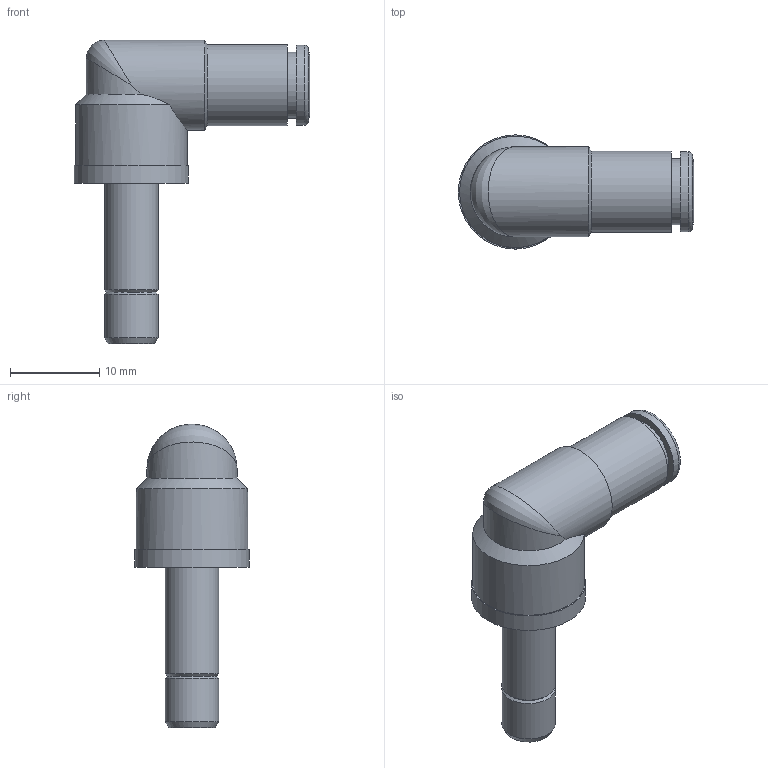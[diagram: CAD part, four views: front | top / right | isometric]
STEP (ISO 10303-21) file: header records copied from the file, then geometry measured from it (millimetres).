
FILE_DESCRIPTION(('Bauteilbeschreibung','HiCAD-Model','HiCAD-STEP-TRANSLATION','Bauteilbeschreibung'),'2;1');
FILE_NAME('B:/ABGLEICH/ZEICHNUNGEN/STEP FÜR INTERNET/STEP/IPSO 047/204707_IPSO_047_6_4.STP','2012-03-21T12:10:57+00:00',('Konstrukteur'),('Konstrukteur Firma GmbH'),' HiCAD neXt 2008, Step 3.1.1401.2J ','HiCAD neXt 2008','confidential');
FILE_SCHEMA(('AUTOMOTIVE_DESIGN { 1 2 10303 214 0 1 1 1 }'));
Length unit declared in the file: millimetre
Products named in the file (4): A04707_IPSO_047_6_4; A14650_N2; R202201_N2; DR4_1_NEU
Assembly tree (3 placements, depth 2):
  A04707_IPSO_047_6_4
    A14650_N2
    R202201_N2
    DR4_1_NEU
Bounding box: 26.4 x 12.8 x 34.05 mm (x, y, z)
Volume: 2187.5 mm3; surface area: 3157.2 mm2
Topology: 3 solids, 3 shells, 54 faces, 110 edges, 65 vertices
Faces by surface type: cylinder 22, cone 18, plane 12, bspline 1, torus 1
Full cylindrical faces by diameter (mm): 3 x1, 4 x1, 4.1 x2, 5.5 x1, 6 x3, 6.4 x1, 7.3 x1, 7.4 x1, 7.6 x1, 9 x3, 9.1 x1, 10.1 x3, 12.5 x1, 12.8 x1
Entity records: 2729 total; most frequent: CARTESIAN_POINT 1413, DIRECTION 224, ORIENTED_EDGE 118, AXIS2_PLACEMENT_3D 112, EDGE_LOOP 105, EDGE_CURVE 59, VERTEX_POINT 57, COLOUR_RGB 56
